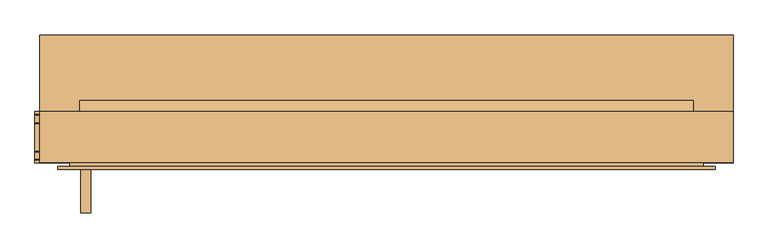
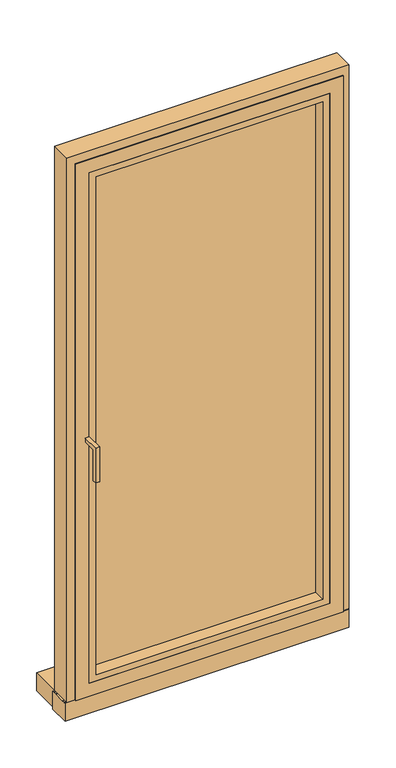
"""IFC4 building model written with IfcOpenShell, lengths in millimetres: door geometry, Reynaers_Masterline 8_Window Door_Inward Opening_Single Vent : Reynaers_Masterline 8_Window Door_Inward Opening_Single Vent."""

from ifc_helpers import new_model, si_unit, point, frame, frame_2d, origin, place, context, project, spatial, polyline, circle_curve, trimmed, segment, composite_curve, outline, extrude, faceted_brep, source, transform, mapped, element, save


def door_6d8f63cc(model_context):
    return source(origin(), model_context, "Body", "SolidModel", [
        extrude(outline(polyline([(-7.0, 1001.0), (-57.0, 1001.0), (-57.0, 881.0), (-72.0, 881.0), (-72.0, 1016.0), (-7.0, 1016.0), (-7.0, 1001.0)])), frame((-458.0, 0.0, 0.0), z_axis=(1.0, 0.0, 0.0), x_axis=(0.0, 1.0, 0.0)), (0.0, 0.0, 1.0), 15.0),
        extrude(outline(polyline([(80.0, 21.1702749), (73.6, 21.7302024), (73.6, 27.5), (80.0, 27.5), (80.0, 21.1702749)])), frame((-460.0, 0.0, 0.0), z_axis=(1.0, 0.0, 0.0), x_axis=(0.0, 1.0, 0.0)), (0.0, 0.0, 1.0), 920.0),
        extrude(outline(polyline([(520.0, 195.0), (520.0, 80.0), (-520.0, 80.0), (-520.0, 195.0), (520.0, 195.0)])), frame((0.0, 0.0, -68.3), z_axis=(0.0, 0.0, 1.0), x_axis=(1.0, 0.0, 0.0)), (0.0, 0.0, 1.0), 70.0),
        extrude(outline(composite_curve([segment(trimmed(circle_curve(frame_2d((8.2497844, 1.7372389)), 0.7509239), [point((7.4997844, 1.7))], [point((8.9997844, 1.7))], True, "CARTESIAN"), True, "CONTINUOUS"), segment(polyline([(8.9997844, 1.7), (19.3997844, 1.7)]), True, "CONTINUOUS"), segment(trimmed(circle_curve(frame_2d((20.1497844, 1.7372389)), 0.7509239), [point((19.3997844, 1.7))], [point((20.8997844, 1.7))], True, "CARTESIAN"), True, "CONTINUOUS"), segment(polyline([(20.8997844, 1.7), (62.1000001, 1.7)]), True, "CONTINUOUS"), segment(trimmed(circle_curve(frame_2d((62.8500001, 1.7372389)), 0.7509239), [point((62.1000001, 1.7))], [point((63.6000001, 1.7))], True, "CARTESIAN"), True, "CONTINUOUS"), segment(polyline([(63.6000001, 1.7), (74.0000001, 1.7)]), True, "CONTINUOUS"), segment(trimmed(circle_curve(frame_2d((74.7500001, 1.7372388)), 0.7509239), [point((74.0000001, 1.7))], [point((75.5000001, 1.7))], True, "CARTESIAN"), True, "CONTINUOUS"), segment(polyline([(75.5000001, 1.7), (80.0, 1.7), (80.0, -68.3), (2.9997844, -68.3), (2.9997844, 1.7), (7.4997844, 1.7)]), True, "CONTINUOUS")], self_intersect=False)), frame((-527.0, 0.0, 0.0), z_axis=(1.0, 0.0, 0.0), x_axis=(0.0, 1.0, 0.0)), (0.0, 0.0, 1.0), 1047.0),
        extrude(outline(composite_curve([segment(polyline([(62.0000001, 22.7450709), (80.0, 21.1702749), (80.0, 1.7), (75.5000001, 1.7)]), True, "CONTINUOUS"), segment(trimmed(circle_curve(frame_2d((74.7500001, 1.7372388)), 0.7509239), [point((75.5000001, 1.7))], [point((74.0000001, 1.7))], False, "CARTESIAN"), True, "CONTINUOUS"), segment(polyline([(74.0000001, 1.7), (63.6000001, 1.7)]), True, "CONTINUOUS"), segment(trimmed(circle_curve(frame_2d((62.8500001, 1.7372389)), 0.7509239), [point((63.6000001, 1.7))], [point((62.1000001, 1.7))], False, "CARTESIAN"), True, "CONTINUOUS"), segment(polyline([(62.1000001, 1.7), (20.8997844, 1.7)]), True, "CONTINUOUS"), segment(trimmed(circle_curve(frame_2d((20.1497844, 1.7372389)), 0.7509239), [point((20.8997844, 1.7))], [point((19.3997844, 1.7))], False, "CARTESIAN"), True, "CONTINUOUS"), segment(polyline([(19.3997844, 1.7), (8.9997844, 1.7)]), True, "CONTINUOUS"), segment(trimmed(circle_curve(frame_2d((8.2497844, 1.7372389)), 0.7509239), [point((8.9997844, 1.7))], [point((7.4997844, 1.7))], False, "CARTESIAN"), True, "CONTINUOUS"), segment(polyline([(7.4997844, 1.7), (2.9997844, 1.7), (2.9997844, 12.9999426), (62.0000001, 12.9999426), (62.0000001, 22.7450709)]), True, "CONTINUOUS")], self_intersect=False)), frame((-460.0, 0.0, 0.0), z_axis=(1.0, 0.0, 0.0), x_axis=(0.0, 1.0, 0.0)), (0.0, 0.0, 1.0), 920.0),
        extrude(outline(composite_curve([segment(polyline([(97.0, 33.4911328), (97.0, 28.25)]), True, "CONTINUOUS"), segment(trimmed(circle_curve(frame_2d((96.25, 28.25)), 0.75), [point((97.0, 28.25))], [point((95.5, 28.25))], False, "CARTESIAN"), True, "CONTINUOUS"), segment(polyline([(95.5, 28.25), (95.5, 32.4408215), (80.0, 38.0823601), (80.0, 27.5), (73.6, 27.5), (73.6, 47.0), (80.0, 47.0), (80.0, 39.6786268), (97.0, 33.4911328)]), True, "CONTINUOUS")], self_intersect=False)), frame((-460.0, 0.0, 0.0), z_axis=(1.0, 0.0, 0.0), x_axis=(0.0, 1.0, 0.0)), (0.0, 0.0, 1.0), 920.0),
        faceted_brep([(453.0, 70.0, 47.0), (453.0, 80.0, 47.0), (453.0, 80.0, 2053.0), (453.0, 70.0, 2053.0), (416.0, 80.0, 84.0), (416.0, 72.0, 84.0), (416.0, 72.0, 2016.0), (416.0, 80.0, 2016.0), (-453.0, 80.0, 2053.0), (-453.0, 70.0, 2053.0), (-416.0, 72.0, 2016.0), (-416.0, 80.0, 2016.0), (-453.0, 80.0, 47.0), (-453.0, 70.0, 47.0), (-416.0, 72.0, 84.0), (-416.0, 80.0, 84.0), (493.0, -7.0, 2093.0), (-493.0, -7.0, 2093.0), (-493.0, -7.0, 7.0), (493.0, -7.0, 7.0), (443.0, -7.0, 57.0), (-443.0, -7.0, 57.0), (-443.0, -7.0, 2043.0), (443.0, -7.0, 2043.0), (443.0, 72.0, 2043.0), (-443.0, 72.0, 2043.0), (-443.0, 72.0, 57.0), (443.0, 72.0, 57.0), (475.0, -3.0, 2075.0), (475.0, 70.0, 2075.0), (-475.0, 70.0, 2075.0), (-475.0, -3.0, 2075.0), (493.0, -3.0, 2093.0), (-493.0, -3.0, 2093.0), (-475.0, 70.0, 25.0), (-475.0, -3.0, 25.0), (-493.0, -3.0, 7.0), (475.0, 70.0, 25.0), (475.0, -3.0, 25.0), (493.0, -3.0, 7.0)], [[[0, 1, 2, 3]], [[4, 5, 6, 7]], [[3, 2, 8, 9]], [[7, 6, 10, 11]], [[9, 8, 12, 13]], [[11, 10, 14, 15]], [[1, 12, 8, 2], [7, 11, 15, 4]], [[13, 12, 1, 0]], [[16, 17, 18, 19], [20, 21, 22, 23]], [[15, 14, 5, 4]], [[24, 23, 22, 25]], [[25, 22, 21, 26]], [[26, 21, 20, 27]], [[27, 20, 23, 24]], [[25, 26, 27, 24], [6, 5, 14, 10]], [[28, 29, 30, 31]], [[16, 32, 33, 17]], [[31, 30, 34, 35]], [[17, 33, 36, 18]], [[35, 34, 37, 38]], [[18, 36, 39, 19]], [[29, 37, 34, 30], [9, 13, 0, 3]], [[38, 37, 29, 28]], [[32, 39, 36, 33], [31, 35, 38, 28]], [[19, 39, 32, 16]]]),
        faceted_brep([(460.0, 80.0, 1.0), (520.0, 80.0, 1.0), (520.0, 3.0, 1.0), (487.0, 3.0, 1.0), (487.0, 76.0, 1.0), (460.0, 76.0, 1.0), (460.0, 80.0, 2060.0), (-460.0, 80.0, 2060.0), (-460.0, 80.0, 1.0), (-520.0, 80.0, 1.0), (-520.0, 80.0, 2120.0), (520.0, 80.0, 2120.0), (520.0, 3.0, 2120.0), (-520.0, 3.0, 2120.0), (-520.0, 3.0, 1.0), (-487.0, 3.0, 1.0), (-487.0, 3.0, 2087.0), (487.0, 3.0, 2087.0), (460.0, 76.0, 2060.0), (-460.0, 76.0, 2060.0), (-460.0, 76.0, 1.0), (-487.0, 76.0, 1.0), (487.0, 76.0, 2087.0), (-487.0, 76.0, 2087.0)], [[[0, 1, 2, 3, 4, 5]], [[1, 0, 6, 7, 8, 9, 10, 11]], [[2, 1, 11, 12]], [[3, 2, 12, 13, 14, 15, 16, 17]], [[0, 5, 18, 6]], [[12, 11, 10, 13]], [[6, 18, 19, 7]], [[8, 20, 21, 15, 14, 9]], [[13, 10, 9, 14]], [[7, 19, 20, 8]], [[22, 17, 16, 23]], [[23, 16, 15, 21]], [[4, 3, 17, 22]], [[5, 4, 22, 23, 21, 20, 19, 18]]]),
        extrude(outline(polyline([(2043.0, -443.0), (57.0, -443.0), (57.0, 443.0), (2043.0, 443.0), (2043.0, -443.0)]), holes=[polyline([(2018.0, 418.0), (82.0, 418.0), (82.0, -418.0), (2018.0, -418.0), (2018.0, 418.0)])]), frame((0.0, -7.0, 0.0), z_axis=(0.0, 1.0, 0.0), x_axis=(0.0, 0.0, 1.0)), (0.0, 0.0, 1.0), 46.0),
        extrude(outline(polyline([(435.0, 45.0), (-435.0, 45.0), (-435.0, 72.0), (435.0, 72.0), (435.0, 45.0)])), frame((0.0, 0.0, 65.0), z_axis=(0.0, 0.0, 1.0), x_axis=(1.0, 0.0, 0.0)), (0.0, 0.0, 1.0), 1970.0),
    ])


if __name__ == "__main__":
    model = new_model("IFC4")
    model_context = context("Model", 3, world=origin())
    ifc_project = project(units=[si_unit("LENGTHUNIT", "METRE", prefix="MILLI")], contexts=[model_context])
    site = spatial("IfcSite", under=ifc_project)
    building = spatial("IfcBuilding", under=site)
    placement = place(None, origin())
    door_shape = door_6d8f63cc(model_context)
    element("IfcDoor", 1, ObjectType="Reynaers_Masterline 8_Window Door_Inward Opening_Single Vent : Reynaers_Masterline 8_Window Door_Inward Opening_Single Vent", at=placement, inside=building, context=model_context, shape_type="MappedRepresentation", body=[
        mapped(door_shape, transform((0.0, 0.0, 0.0), x_axis=(1.0, 0.0, 0.0), y_axis=(0.0, 1.0, 0.0), z_axis=(0.0, 0.0, 1.0))),
    ])
    save(model, "model.ifc")
